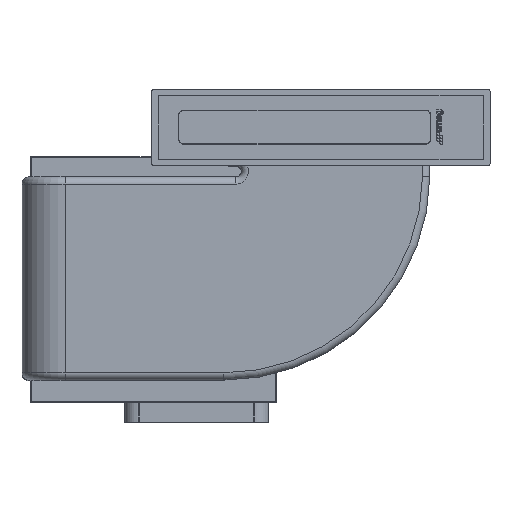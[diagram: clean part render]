
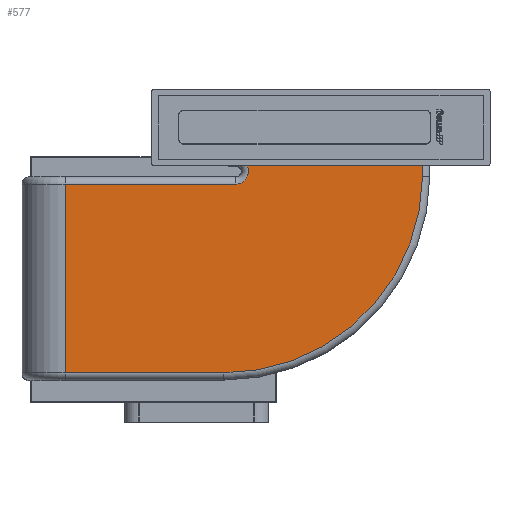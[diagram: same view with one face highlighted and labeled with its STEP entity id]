
A CAD part, top view. The second image highlights one B-rep face of the part: STEP entity #577.
In plain terms, the highlighted planar face has unit normal (0, 0, 1).
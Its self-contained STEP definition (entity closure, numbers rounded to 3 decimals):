
#399=CIRCLE('',#3888,7.134);
#400=CIRCLE('',#3889,19.);
#401=CIRCLE('',#3890,299.);
#577=ADVANCED_FACE('',(#902),#763,.T.);
#763=PLANE('',#3891);
#902=FACE_OUTER_BOUND('',#1110,.T.);
#1110=EDGE_LOOP('',(#1660,#1661,#1662,#1663,#1664,#1665,#1666,#1667,#1668));
#1660=ORIENTED_EDGE('',*,*,#2802,.T.);
#1661=ORIENTED_EDGE('',*,*,#2803,.T.);
#1662=ORIENTED_EDGE('',*,*,#2804,.T.);
#1663=ORIENTED_EDGE('',*,*,#2805,.T.);
#1664=ORIENTED_EDGE('',*,*,#2806,.T.);
#1665=ORIENTED_EDGE('',*,*,#2807,.T.);
#1666=ORIENTED_EDGE('',*,*,#2808,.T.);
#1667=ORIENTED_EDGE('',*,*,#2809,.T.);
#1668=ORIENTED_EDGE('',*,*,#2810,.T.);
#2402=VERTEX_POINT('',#19480);
#2403=VERTEX_POINT('',#19481);
#2404=VERTEX_POINT('',#19483);
#2405=VERTEX_POINT('',#19485);
#2406=VERTEX_POINT('',#19487);
#2407=VERTEX_POINT('',#19489);
#2408=VERTEX_POINT('',#19491);
#2409=VERTEX_POINT('',#19493);
#2410=VERTEX_POINT('',#19495);
#2802=EDGE_CURVE('',#2402,#2403,#3250,.T.);
#2803=EDGE_CURVE('',#2403,#2404,#3251,.T.);
#2804=EDGE_CURVE('',#2404,#2405,#399,.T.);
#2805=EDGE_CURVE('',#2405,#2406,#3252,.T.);
#2806=EDGE_CURVE('',#2406,#2407,#400,.T.);
#2807=EDGE_CURVE('',#2407,#2408,#3253,.T.);
#2808=EDGE_CURVE('',#2408,#2409,#3254,.T.);
#2809=EDGE_CURVE('',#2409,#2410,#3255,.T.);
#2810=EDGE_CURVE('',#2410,#2402,#401,.T.);
#3250=LINE('',#19479,#3575);
#3251=LINE('',#19482,#3576);
#3252=LINE('',#19486,#3577);
#3253=LINE('',#19490,#3578);
#3254=LINE('',#19492,#3579);
#3255=LINE('',#19494,#3580);
#3575=VECTOR('',#4516,1.);
#3576=VECTOR('',#4517,1.);
#3577=VECTOR('',#4520,1.);
#3578=VECTOR('',#4523,1.);
#3579=VECTOR('',#4524,1.);
#3580=VECTOR('',#4525,1.);
#3888=AXIS2_PLACEMENT_3D('',#19484,#4518,#4519);
#3889=AXIS2_PLACEMENT_3D('',#19488,#4521,#4522);
#3890=AXIS2_PLACEMENT_3D('',#19496,#4526,#4527);
#3891=AXIS2_PLACEMENT_3D('',#19497,#4528,#4529);
#4516=DIRECTION('',(0.,1.,0.));
#4517=DIRECTION('',(-1.,0.,0.));
#4518=DIRECTION('',(0.,0.,1.));
#4519=DIRECTION('',(1.,0.,0.));
#4520=DIRECTION('',(1.,-0.029,0.));
#4521=DIRECTION('',(0.,0.,-1.));
#4522=DIRECTION('',(1.,0.,0.));
#4523=DIRECTION('',(-1.,0.,0.));
#4524=DIRECTION('',(0.,-1.,0.));
#4525=DIRECTION('',(1.,0.,0.));
#4526=DIRECTION('',(0.,0.,1.));
#4527=DIRECTION('',(1.,0.,0.));
#4528=DIRECTION('',(0.,0.,1.));
#4529=DIRECTION('',(1.,0.,0.));
#19479=CARTESIAN_POINT('',(589.974,0.,962.));
#19480=CARTESIAN_POINT('',(589.974,338.072,962.));
#19481=CARTESIAN_POINT('',(589.974,367.,962.));
#19482=CARTESIAN_POINT('',(589.974,367.,962.));
#19483=CARTESIAN_POINT('',(240.776,367.,962.));
#19484=CARTESIAN_POINT('',(241.108,374.126,962.));
#19485=CARTESIAN_POINT('',(240.9,366.995,962.));
#19486=CARTESIAN_POINT('',(10.923,373.717,962.));
#19487=CARTESIAN_POINT('',(309.444,364.992,962.));
#19488=CARTESIAN_POINT('',(308.889,346.,962.));
#19489=CARTESIAN_POINT('',(308.889,327.,962.));
#19490=CARTESIAN_POINT('',(52.,327.,962.));
#19491=CARTESIAN_POINT('',(52.,327.,962.));
#19492=CARTESIAN_POINT('',(52.,32.,962.));
#19493=CARTESIAN_POINT('',(52.,43.,962.));
#19494=CARTESIAN_POINT('',(291.,43.,962.));
#19495=CARTESIAN_POINT('',(291.,43.,962.));
#19496=CARTESIAN_POINT('',(291.,342.,962.));
#19497=CARTESIAN_POINT('',(0.,0.,962.));
